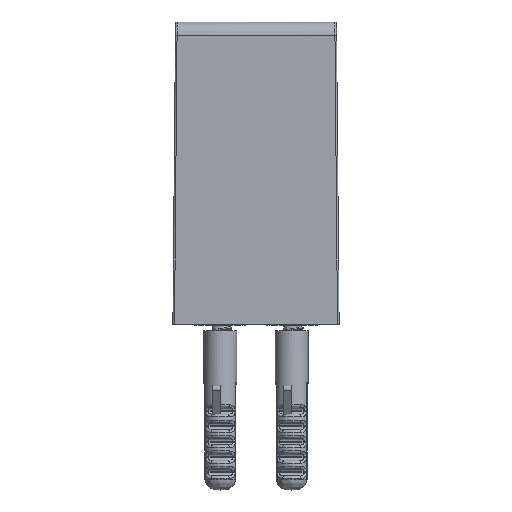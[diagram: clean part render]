
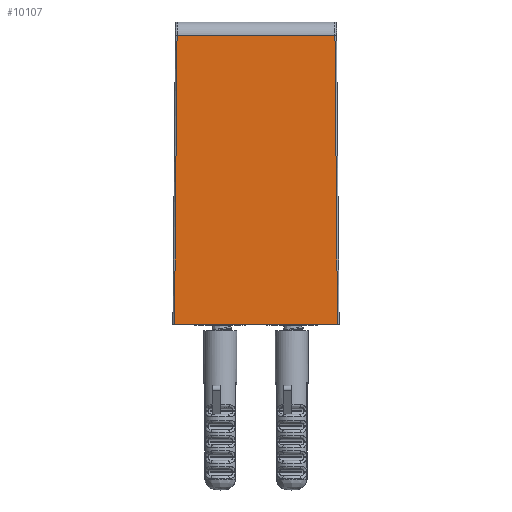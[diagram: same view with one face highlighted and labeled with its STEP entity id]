
A CAD part, left-side view. The second image highlights one B-rep face of the part: STEP entity #10107.
In plain terms, the highlighted planar face has unit normal (-1, 0, 0.009).
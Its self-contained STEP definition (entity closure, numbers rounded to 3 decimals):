
#428=PLANE('',#11068);
#958=FACE_OUTER_BOUND('',#1611,.T.);
#1611=EDGE_LOOP('',(#8709,#8710,#8711,#8712));
#2657=LINE('',#41357,#3195);
#2670=LINE('',#41502,#3208);
#2690=LINE('',#42360,#3228);
#2691=LINE('',#42362,#3229);
#3195=VECTOR('',#13206,29.662);
#3208=VECTOR('',#13237,52.526);
#3228=VECTOR('',#13317,52.526);
#3229=VECTOR('',#13320,28.745);
#4563=VERTEX_POINT('',#41354);
#4564=VERTEX_POINT('',#41356);
#4595=VERTEX_POINT('',#41501);
#4631=VERTEX_POINT('',#42358);
#5933=EDGE_CURVE('',#4563,#4564,#2657,.T.);
#5965=EDGE_CURVE('',#4564,#4595,#2670,.T.);
#6020=EDGE_CURVE('',#4631,#4563,#2690,.T.);
#6021=EDGE_CURVE('',#4595,#4631,#2691,.T.);
#8709=ORIENTED_EDGE('',*,*,#5965,.F.);
#8710=ORIENTED_EDGE('',*,*,#5933,.F.);
#8711=ORIENTED_EDGE('',*,*,#6020,.F.);
#8712=ORIENTED_EDGE('',*,*,#6021,.F.);
#10107=ADVANCED_FACE('',(#958),#428,.T.);
#11068=AXIS2_PLACEMENT_3D('',#42361,#13318,#13319);
#13206=DIRECTION('',(0.,1.,0.));
#13237=DIRECTION('',(0.009,-0.009,1.));
#13317=DIRECTION('',(-0.009,-0.009,-1.));
#13318=DIRECTION('center_axis',(-1.,0.,0.009));
#13319=DIRECTION('ref_axis',(0.,1.,0.));
#13320=DIRECTION('',(0.,-1.,0.));
#41354=CARTESIAN_POINT('',(-18.331,-14.831,103.4));
#41356=CARTESIAN_POINT('',(-18.331,14.831,103.4));
#41357=CARTESIAN_POINT('',(-18.331,-14.831,103.4));
#41501=CARTESIAN_POINT('',(-17.873,14.373,155.922));
#41502=CARTESIAN_POINT('',(-18.331,14.831,103.4));
#42358=CARTESIAN_POINT('',(-17.873,-14.373,155.922));
#42360=CARTESIAN_POINT('',(-17.873,-14.373,155.922));
#42361=CARTESIAN_POINT('Origin',(-18.2,-16.874,118.4));
#42362=CARTESIAN_POINT('',(-17.873,14.373,155.922));
